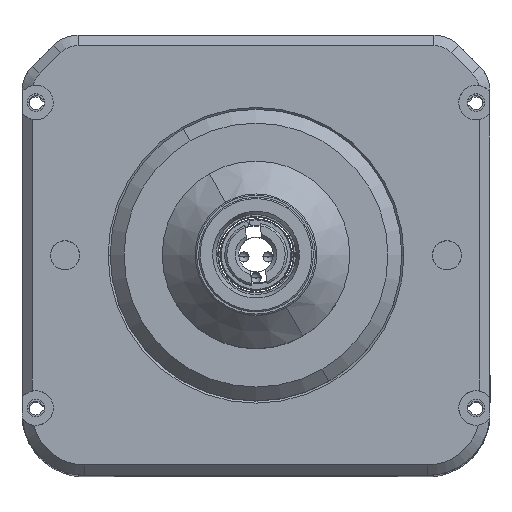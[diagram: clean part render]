
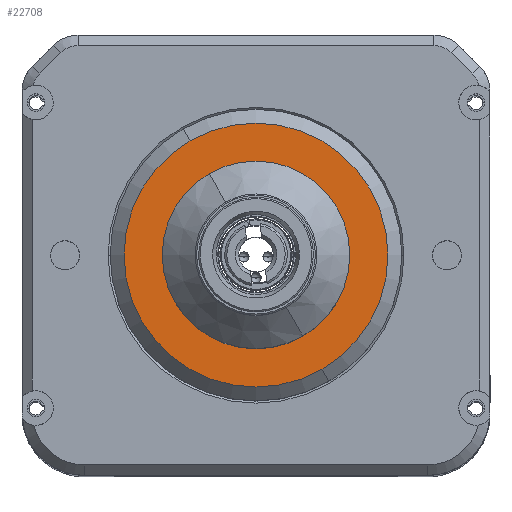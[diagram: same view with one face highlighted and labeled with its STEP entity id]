
A CAD part, top view. The second image highlights one B-rep face of the part: STEP entity #22708.
In plain terms, the highlighted planar face has unit normal (0, 0, 1).
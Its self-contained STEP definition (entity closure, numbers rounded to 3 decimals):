
#845 = VERTEX_POINT ( 'NONE', #6099 ) ;
#1019 = EDGE_CURVE ( 'NONE', #3969, #845, #1086, .T. ) ;
#1086 = CIRCLE ( 'NONE', #23581, 19. ) ;
#1201 = AXIS2_PLACEMENT_3D ( 'NONE', #12677, #9382, #7420 ) ;
#2440 = CARTESIAN_POINT ( 'NONE',  ( 0., 0., 24. ) ) ;
#3307 = CIRCLE ( 'NONE', #21596, 19. ) ;
#3969 = VERTEX_POINT ( 'NONE', #9101 ) ;
#4206 = DIRECTION ( 'NONE',  ( 0., 0., 1. ) ) ;
#5613 = DIRECTION ( 'NONE',  ( 0.5, -0.866, 0. ) ) ;
#5727 = EDGE_CURVE ( 'NONE', #16763, #10536, #24196, .T. ) ;
#6099 = CARTESIAN_POINT ( 'NONE',  ( 9.5, -16.454, 24. ) ) ;
#7420 = DIRECTION ( 'NONE',  ( 0.5, -0.866, 0. ) ) ;
#9101 = CARTESIAN_POINT ( 'NONE',  ( -9.5, 16.454, 24. ) ) ;
#9382 = DIRECTION ( 'NONE',  ( 0., 0., 1. ) ) ;
#9909 = ORIENTED_EDGE ( 'NONE', *, *, #1019, .T. ) ;
#10536 = VERTEX_POINT ( 'NONE', #11049 ) ;
#11049 = CARTESIAN_POINT ( 'NONE',  ( 6.75, -11.691, 24. ) ) ;
#11414 = FACE_OUTER_BOUND ( 'NONE', #31280, .T. ) ;
#11579 = PLANE ( 'NONE',  #23683 ) ;
#11737 = DIRECTION ( 'NONE',  ( 0.5, -0.866, 0. ) ) ;
#12079 = CIRCLE ( 'NONE', #29400, 13.5 ) ;
#12677 = CARTESIAN_POINT ( 'NONE',  ( 0., 0., 24. ) ) ;
#13161 = DIRECTION ( 'NONE',  ( 0., 0., 1. ) ) ;
#15339 = EDGE_CURVE ( 'NONE', #10536, #16763, #12079, .T. ) ;
#16763 = VERTEX_POINT ( 'NONE', #31594 ) ;
#18576 = ORIENTED_EDGE ( 'NONE', *, *, #23247, .T. ) ;
#18950 = FACE_BOUND ( 'NONE', #28504, .T. ) ;
#19106 = CARTESIAN_POINT ( 'NONE',  ( 11.691, 6.75, 24. ) ) ;
#19721 = DIRECTION ( 'NONE',  ( 0., 0., 1. ) ) ;
#19970 = DIRECTION ( 'NONE',  ( 0.5, -0.866, 0. ) ) ;
#20828 = CARTESIAN_POINT ( 'NONE',  ( 0., 0., 24. ) ) ;
#21596 = AXIS2_PLACEMENT_3D ( 'NONE', #29551, #19721, #27260 ) ;
#22577 = DIRECTION ( 'NONE',  ( 0., 0., 1. ) ) ;
#22708 = ADVANCED_FACE ( 'NONE', ( #11414, #18950 ), #11579, .T. ) ;
#23247 = EDGE_CURVE ( 'NONE', #845, #3969, #3307, .T. ) ;
#23581 = AXIS2_PLACEMENT_3D ( 'NONE', #2440, #22577, #19970 ) ;
#23683 = AXIS2_PLACEMENT_3D ( 'NONE', #19106, #4206, #11737 ) ;
#24196 = CIRCLE ( 'NONE', #1201, 13.5 ) ;
#25860 = ORIENTED_EDGE ( 'NONE', *, *, #5727, .F. ) ;
#27260 = DIRECTION ( 'NONE',  ( 0.5, -0.866, 0. ) ) ;
#28504 = EDGE_LOOP ( 'NONE', ( #29640, #25860 ) ) ;
#29400 = AXIS2_PLACEMENT_3D ( 'NONE', #20828, #13161, #5613 ) ;
#29551 = CARTESIAN_POINT ( 'NONE',  ( 0., 0., 24. ) ) ;
#29640 = ORIENTED_EDGE ( 'NONE', *, *, #15339, .F. ) ;
#31280 = EDGE_LOOP ( 'NONE', ( #9909, #18576 ) ) ;
#31594 = CARTESIAN_POINT ( 'NONE',  ( -6.75, 11.691, 24. ) ) ;
